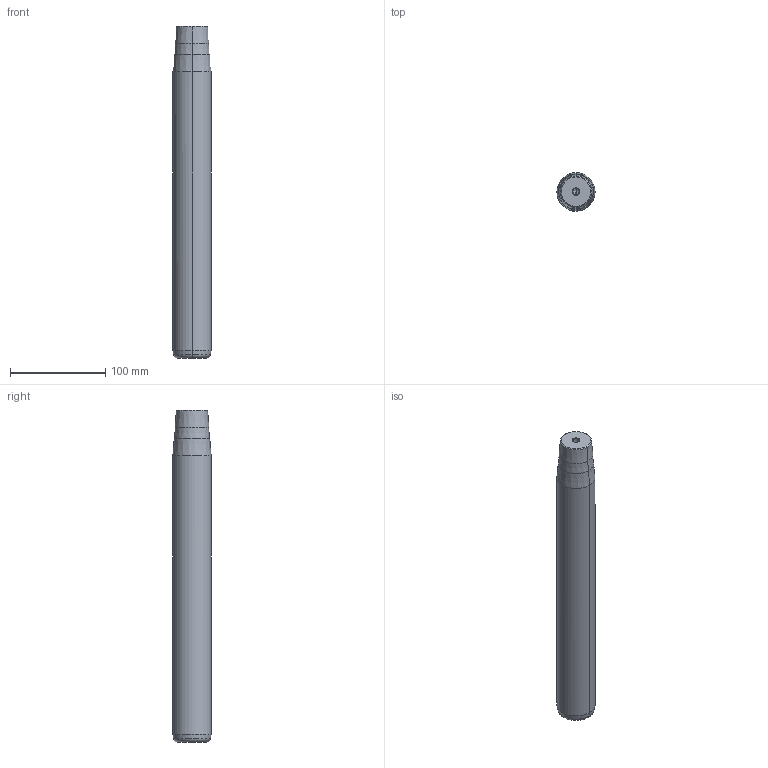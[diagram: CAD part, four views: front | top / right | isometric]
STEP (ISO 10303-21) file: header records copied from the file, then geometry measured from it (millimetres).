
FILE_DESCRIPTION(('CATIA V5 STEP Exchange'),'2;1');
FILE_NAME('C:\Users\Utente\Desktop\IO LAVORO\3D X SITO CF\X SITO\722\722-40x315x348.stp','2021-01-08T15:06:36+00:00',('none'),('none'),'CATIA Version 5 Release 20 GA (IN-10)','CATIA V5 STEP AP203','none');
FILE_SCHEMA(('CONFIG_CONTROL_DESIGN'));
Length unit declared in the file: millimetre
Products named in the file (1): 722-40x315x348
Bounding box: 40 x 40 x 348 mm (x, y, z)
Volume: 423949.2 mm3; surface area: 46067.8 mm2
Topology: 1 solids, 1 shells, 32 faces, 98 edges, 66 vertices
Faces by surface type: cone 22, cylinder 6, plane 2, torus 2
Entity records: 1166 total; most frequent: CARTESIAN_POINT 279, ORIENTED_EDGE 188, DIRECTION 148, EDGE_CURVE 94, AXIS2_PLACEMENT_3D 89, VERTEX_POINT 66, CIRCLE 56, EDGE_LOOP 34
